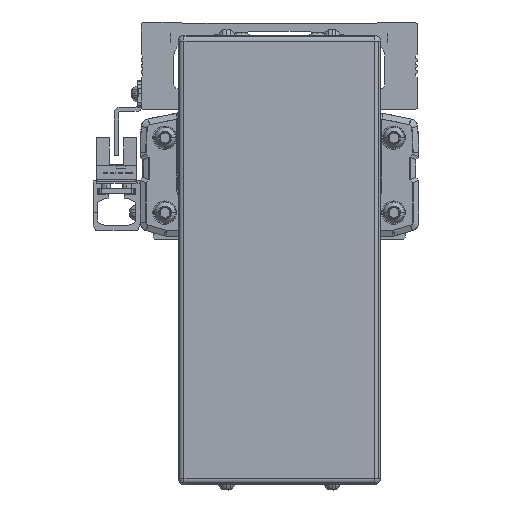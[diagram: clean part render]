
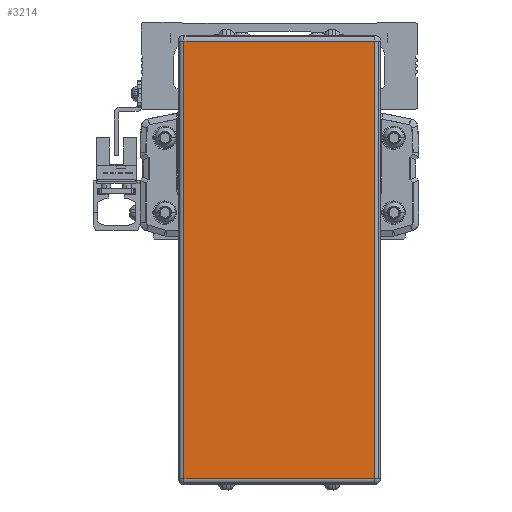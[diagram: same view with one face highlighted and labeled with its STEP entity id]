
A CAD part, front view. The second image highlights one B-rep face of the part: STEP entity #3214.
In plain terms, the highlighted planar face has unit normal (0, -1, 0).
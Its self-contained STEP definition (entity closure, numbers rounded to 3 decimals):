
#3214=ADVANCED_FACE('',(#8740),#8741,.T.);
#8740=FACE_OUTER_BOUND('',#17191,.T.);
#8741=PLANE('',#17192);
#17191=EDGE_LOOP('',(#27356,#27357,#27358,#27359));
#17192=AXIS2_PLACEMENT_3D('',#27360,#27361,#27362);
#27356=ORIENTED_EDGE('',*,*,#51155,.F.);
#27357=ORIENTED_EDGE('',*,*,#51156,.F.);
#27358=ORIENTED_EDGE('',*,*,#51157,.F.);
#27359=ORIENTED_EDGE('',*,*,#51158,.F.);
#27360=CARTESIAN_POINT('',(0.,-339.778,-50.1));
#27361=DIRECTION('',(0.0,-1.0,0.));
#27362=DIRECTION('',(1.0,0.0,0.0));
#51155=EDGE_CURVE('',#60954,#60955,#60956,.T.);
#51156=EDGE_CURVE('',#60957,#60954,#60958,.T.);
#51157=EDGE_CURVE('',#60959,#60957,#60960,.T.);
#51158=EDGE_CURVE('',#60955,#60959,#60961,.T.);
#60954=VERTEX_POINT('',#75165);
#60955=VERTEX_POINT('',#75166);
#60956=LINE('',#75167,#75168);
#60957=VERTEX_POINT('',#75169);
#60958=LINE('',#75170,#75171);
#60959=VERTEX_POINT('',#75172);
#60960=LINE('',#75173,#75174);
#60961=LINE('',#75175,#75176);
#75165=CARTESIAN_POINT('',(32.5,-339.778,24.5));
#75166=CARTESIAN_POINT('',(32.5,-339.778,-124.7));
#75167=CARTESIAN_POINT('',(32.5,-339.778,-50.1));
#75168=VECTOR('',#94969,10.0);
#75169=CARTESIAN_POINT('',(-32.5,-339.778,24.5));
#75170=CARTESIAN_POINT('',(0.,-339.778,24.5));
#75171=VECTOR('',#94970,10.0);
#75172=CARTESIAN_POINT('',(-32.5,-339.778,-124.7));
#75173=CARTESIAN_POINT('',(-32.5,-339.778,-50.1));
#75174=VECTOR('',#94971,10.0);
#75175=CARTESIAN_POINT('',(0.,-339.778,-124.7));
#75176=VECTOR('',#94972,10.0);
#94969=DIRECTION('',(0.0,0.,-1.0));
#94970=DIRECTION('',(1.0,0.0,0.0));
#94971=DIRECTION('',(0.0,0.,1.0));
#94972=DIRECTION('',(-1.0,0.0,0.0));
